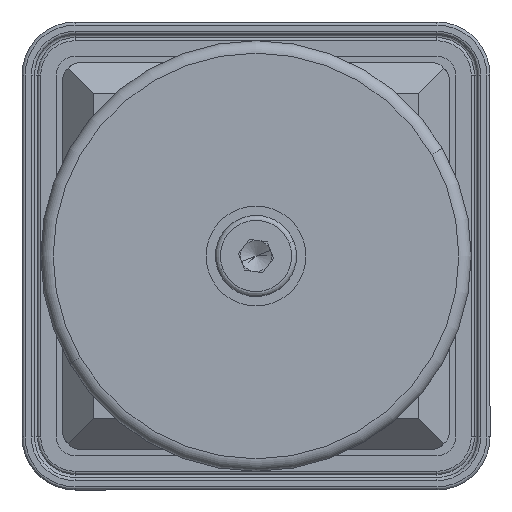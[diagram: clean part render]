
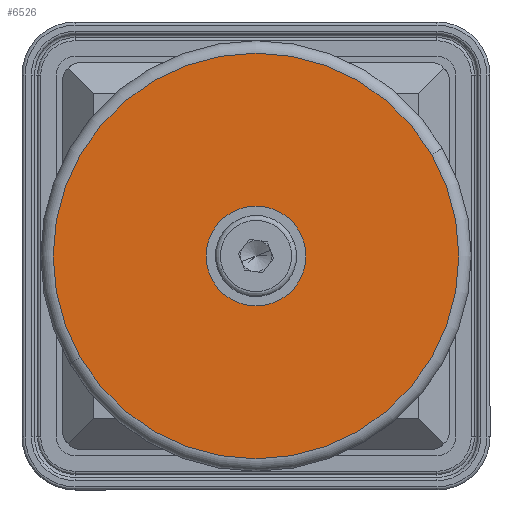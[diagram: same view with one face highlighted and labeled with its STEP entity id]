
A CAD part, front view. The second image highlights one B-rep face of the part: STEP entity #6526.
In plain terms, the highlighted planar face has unit normal (0, -1, 0).
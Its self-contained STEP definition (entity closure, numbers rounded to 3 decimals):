
#89 = AXIS2_PLACEMENT_3D ( 'NONE', #3149, #8037, #3858 ) ;
#570 = CIRCLE ( 'NONE', #2927, 8. ) ;
#714 = CARTESIAN_POINT ( 'NONE',  ( 0., -18., 32.5 ) ) ;
#953 = CARTESIAN_POINT ( 'NONE',  ( 0., -18., 0. ) ) ;
#1086 = CARTESIAN_POINT ( 'NONE',  ( 34.5, -18., 0. ) ) ;
#1117 = FACE_OUTER_BOUND ( 'NONE', #7880, .T. ) ;
#1651 = DIRECTION ( 'NONE',  ( 0., 0., -1. ) ) ;
#1790 = DIRECTION ( 'NONE',  ( 0., 0., -1. ) ) ;
#1791 = VERTEX_POINT ( 'NONE', #8972 ) ;
#1848 = CARTESIAN_POINT ( 'NONE',  ( 0., -18., -8. ) ) ;
#1904 = VERTEX_POINT ( 'NONE', #714 ) ;
#2108 = EDGE_CURVE ( 'NONE', #1904, #8967, #4814, .T. ) ;
#2483 = ORIENTED_EDGE ( 'NONE', *, *, #5733, .F. ) ;
#2749 = FACE_BOUND ( 'NONE', #8870, .T. ) ;
#2927 = AXIS2_PLACEMENT_3D ( 'NONE', #3696, #8594, #4404 ) ;
#3149 = CARTESIAN_POINT ( 'NONE',  ( 0., -18., 0. ) ) ;
#3255 = AXIS2_PLACEMENT_3D ( 'NONE', #3392, #8286, #4109 ) ;
#3392 = CARTESIAN_POINT ( 'NONE',  ( 0., -18., 0. ) ) ;
#3525 = CARTESIAN_POINT ( 'NONE',  ( 0., -18., -32.5 ) ) ;
#3623 = EDGE_CURVE ( 'NONE', #1791, #3692, #7758, .T. ) ;
#3692 = VERTEX_POINT ( 'NONE', #1848 ) ;
#3696 = CARTESIAN_POINT ( 'NONE',  ( 0., -18., 0. ) ) ;
#3858 = DIRECTION ( 'NONE',  ( 0., 0., -1. ) ) ;
#4060 = ORIENTED_EDGE ( 'NONE', *, *, #5146, .T. ) ;
#4109 = DIRECTION ( 'NONE',  ( 0., 0., -1. ) ) ;
#4404 = DIRECTION ( 'NONE',  ( 0., 0., -1. ) ) ;
#4743 = AXIS2_PLACEMENT_3D ( 'NONE', #1086, #5965, #1790 ) ;
#4814 = CIRCLE ( 'NONE', #8338, 32.5 ) ;
#5146 = EDGE_CURVE ( 'NONE', #8967, #1904, #8240, .T. ) ;
#5733 = EDGE_CURVE ( 'NONE', #3692, #1791, #570, .T. ) ;
#5834 = DIRECTION ( 'NONE',  ( 0., -1., 0. ) ) ;
#5965 = DIRECTION ( 'NONE',  ( 0., -1., 0. ) ) ;
#6526 = ADVANCED_FACE ( 'NONE', ( #1117, #2749 ), #8743, .T. ) ;
#7737 = ORIENTED_EDGE ( 'NONE', *, *, #3623, .F. ) ;
#7758 = CIRCLE ( 'NONE', #89, 8. ) ;
#7880 = EDGE_LOOP ( 'NONE', ( #4060, #7911 ) ) ;
#7911 = ORIENTED_EDGE ( 'NONE', *, *, #2108, .T. ) ;
#8037 = DIRECTION ( 'NONE',  ( 0., -1., 0. ) ) ;
#8240 = CIRCLE ( 'NONE', #3255, 32.5 ) ;
#8286 = DIRECTION ( 'NONE',  ( 0., -1., 0. ) ) ;
#8338 = AXIS2_PLACEMENT_3D ( 'NONE', #953, #5834, #1651 ) ;
#8594 = DIRECTION ( 'NONE',  ( 0., -1., 0. ) ) ;
#8743 = PLANE ( 'NONE',  #4743 ) ;
#8870 = EDGE_LOOP ( 'NONE', ( #2483, #7737 ) ) ;
#8967 = VERTEX_POINT ( 'NONE', #3525 ) ;
#8972 = CARTESIAN_POINT ( 'NONE',  ( 0., -18., 8. ) ) ;
